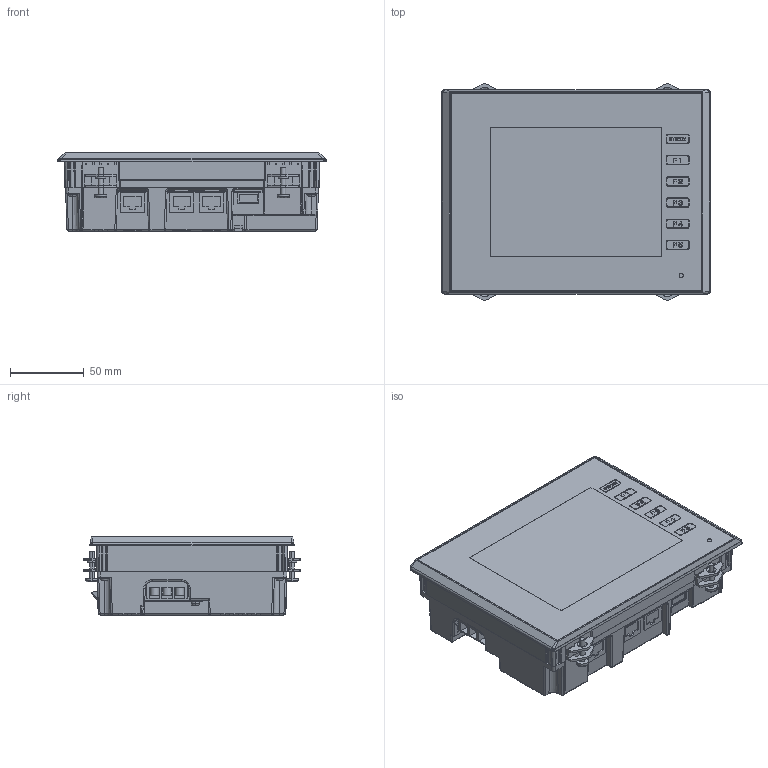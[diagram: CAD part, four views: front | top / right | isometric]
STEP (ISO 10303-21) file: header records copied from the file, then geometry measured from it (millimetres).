
FILE_DESCRIPTION((''),'2;1');
FILE_NAME('V9060ITD_3D-DATA','2015-03-28T',('ichinose'),('Hakko Electronics Co.,Ltd.'),'PRO/ENGINEER BY PARAMETRIC TECHNOLOGY CORPORATION, 2011330','PRO/ENGINEER BY PARAMETRIC TECHNOLOGY CORPORATION, 2011330','');
FILE_SCHEMA(('CONFIG_CONTROL_DESIGN'));
Products named in the file (1): V9060ITD_3D-DATA
Bounding box: 182.5 x 147 x 53 mm (x, y, z)
Volume: 1123665.9 mm3; surface area: 97170 mm2
Topology: 1 solids, 1 shells, 2981 faces, 8252 edges, 5342 vertices
Faces by surface type: plane 2376, cylinder 366, bspline 129, cone 38, sphere 37, torus 33, extrusion 2
Entity records: 103834 total; most frequent: CARTESIAN_POINT 28789, ORIENTED_EDGE 16496, DIRECTION 13980, EDGE_CURVE 8248, VECTOR 7126, LINE 7124, VERTEX_POINT 5342, AXIS2_PLACEMENT_3D 3427
